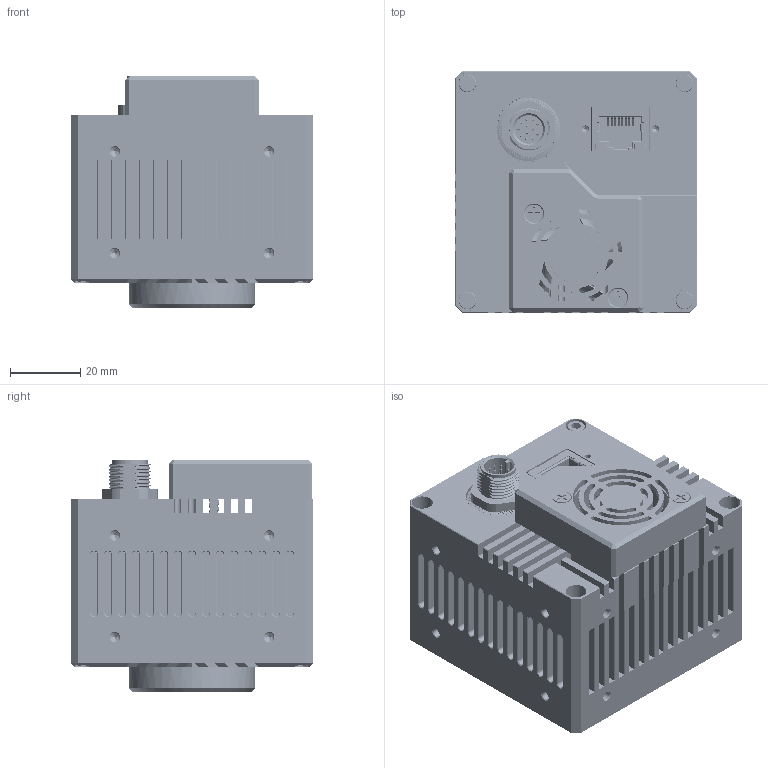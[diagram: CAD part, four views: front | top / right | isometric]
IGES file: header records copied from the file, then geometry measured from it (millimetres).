
Global section: file name: C:\Users\Administrator\Desktop\GEC130I-TF-C-V100.igs; native system: NX V12.0; preprocessor: SIEMENS PLM Software NX 12.0; date: 20240116.152952; units: millimetre
Bounding box: 69 x 69 x 66.13 mm (x, y, z)
Surface area: 88476.8 mm2 (no closed solid volume)
Topology: 0 solids, 0 shells, 3114 faces, 17358 edges, 17197 vertices
Faces by surface type: bspline 3114
